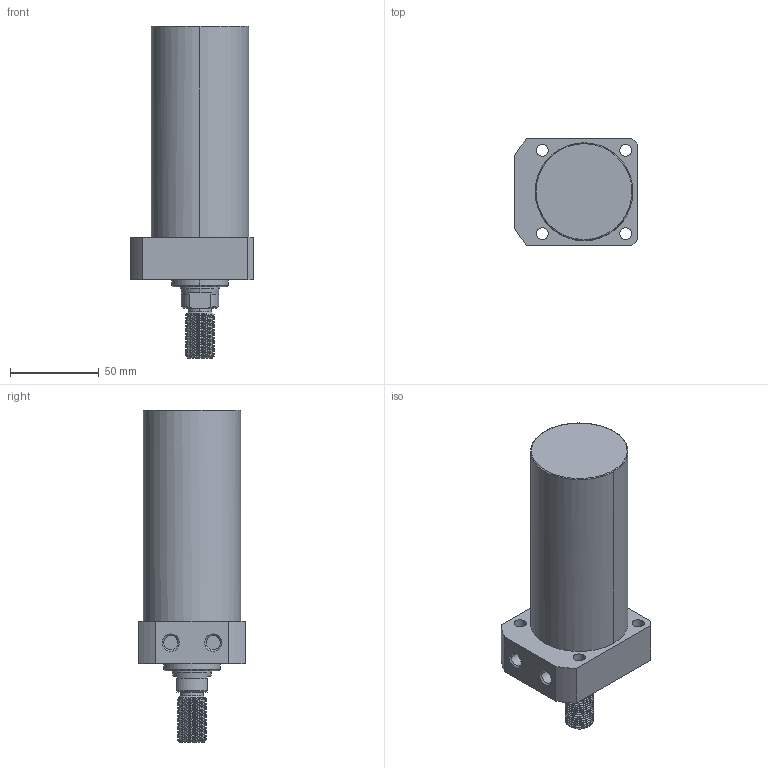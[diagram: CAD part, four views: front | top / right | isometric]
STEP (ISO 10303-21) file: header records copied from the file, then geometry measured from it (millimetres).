
FILE_DESCRIPTION((' '),'2;1');
FILE_NAME( 'TLLR-055CT-090.STEP.stp', '2025-10-24T16:34:47', (' '), ('--- Datakit www.datakit.com---'), ' Datakit CrossCadWare V2024.1 Dec 21 2023', 'Mastercam 2025', ' ');
FILE_SCHEMA(('AUTOMOTIVE_DESIGN { 1 0 10303 214 1 1 1 1 }'));
Length unit declared in the file: millimetre
Products named in the file (1): TLLR-055CT-090
Bounding box: 69 x 60 x 187 mm (x, y, z)
Volume: 387496.9 mm3; surface area: 40328.5 mm2
Topology: 1 solids, 1 shells, 101 faces, 356 edges, 265 vertices
Faces by surface type: cylinder 61, plane 20, cone 16, bspline 2, torus 2
Entity records: 10988 total; most frequent: CARTESIAN_POINT 7908, ORIENTED_EDGE 712, DIRECTION 516, EDGE_CURVE 356, VERTEX_POINT 265, AXIS2_PLACEMENT_3D 209, B_SPLINE_CURVE_WITH_KNOTS 149, EDGE_LOOP 117
